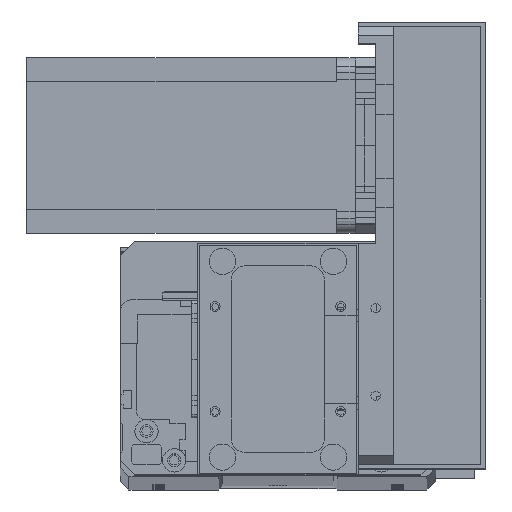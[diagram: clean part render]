
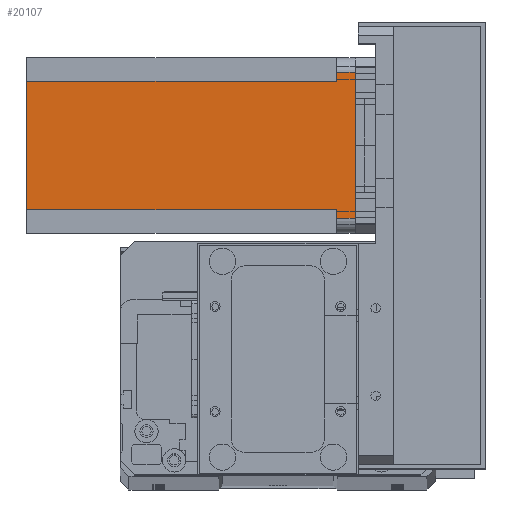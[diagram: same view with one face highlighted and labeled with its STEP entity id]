
A CAD part, top view. The second image highlights one B-rep face of the part: STEP entity #20107.
In plain terms, the highlighted planar face has unit normal (0, 0, 1) as drawn and (0, 1, 0) by its records, which use the part's own axes.
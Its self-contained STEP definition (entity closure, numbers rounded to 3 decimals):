
#44 = VERTEX_POINT ( 'NONE', #1374 ) ;
#1374 = CARTESIAN_POINT ( 'NONE',  ( 52., 60., -112.5 ) ) ;
#1940 = AXIS2_PLACEMENT_3D ( 'NONE', #10374, #13042, #31645 ) ;
#2278 = VECTOR ( 'NONE', #20853, 1000. ) ;
#3278 = ORIENTED_EDGE ( 'NONE', *, *, #4891, .T. ) ;
#4221 = CARTESIAN_POINT ( 'NONE',  ( 0., 60., 0. ) ) ;
#4891 = EDGE_CURVE ( 'NONE', #26386, #33839, #9942, .T. ) ;
#5492 = CARTESIAN_POINT ( 'NONE',  ( 5., 60., 0. ) ) ;
#6322 = LINE ( 'NONE', #16044, #19592 ) ;
#7573 = DIRECTION ( 'NONE',  ( -1., 0., 0. ) ) ;
#7889 = CARTESIAN_POINT ( 'NONE',  ( 8., 60., -112.5 ) ) ;
#8485 = FACE_OUTER_BOUND ( 'NONE', #16113, .T. ) ;
#8500 = EDGE_CURVE ( 'NONE', #10955, #33839, #12228, .T. ) ;
#9814 = EDGE_CURVE ( 'NONE', #26386, #12941, #23393, .T. ) ;
#9942 = LINE ( 'NONE', #17019, #23257 ) ;
#10358 = VERTEX_POINT ( 'NONE', #7889 ) ;
#10374 = CARTESIAN_POINT ( 'NONE',  ( 0., 60., -112.5 ) ) ;
#10632 = CARTESIAN_POINT ( 'NONE',  ( 8., 60., -112.5 ) ) ;
#10677 = DIRECTION ( 'NONE',  ( -1., 0., 0. ) ) ;
#10955 = VERTEX_POINT ( 'NONE', #15630 ) ;
#11748 = CARTESIAN_POINT ( 'NONE',  ( 52., 60., -112.5 ) ) ;
#12139 = CARTESIAN_POINT ( 'NONE',  ( 55., 60., -6.5 ) ) ;
#12228 = LINE ( 'NONE', #19976, #34304 ) ;
#12941 = VERTEX_POINT ( 'NONE', #5492 ) ;
#13042 = DIRECTION ( 'NONE',  ( 0., 1., 0. ) ) ;
#13218 = ORIENTED_EDGE ( 'NONE', *, *, #22394, .T. ) ;
#13413 = CARTESIAN_POINT ( 'NONE',  ( 55., 60., 0. ) ) ;
#14456 = DIRECTION ( 'NONE',  ( 0., 0., 1. ) ) ;
#14851 = VECTOR ( 'NONE', #14456, 1000. ) ;
#15630 = CARTESIAN_POINT ( 'NONE',  ( 52., 60., -6.5 ) ) ;
#15683 = LINE ( 'NONE', #11748, #14851 ) ;
#16000 = DIRECTION ( 'NONE',  ( 0., 0., -1. ) ) ;
#16044 = CARTESIAN_POINT ( 'NONE',  ( 8., 60., -6.5 ) ) ;
#16113 = EDGE_LOOP ( 'NONE', ( #25233, #3278, #21929, #33184, #13218, #29199, #27236, #33185 ) ) ;
#17019 = CARTESIAN_POINT ( 'NONE',  ( 55., 60., -112.5 ) ) ;
#17871 = LINE ( 'NONE', #10632, #24092 ) ;
#17954 = VERTEX_POINT ( 'NONE', #24456 ) ;
#18107 = EDGE_CURVE ( 'NONE', #44, #10955, #15683, .T. ) ;
#18190 = CARTESIAN_POINT ( 'NONE',  ( 5., 60., -112.5 ) ) ;
#19592 = VECTOR ( 'NONE', #10677, 1000. ) ;
#19642 = EDGE_CURVE ( 'NONE', #23419, #12941, #21813, .T. ) ;
#19976 = CARTESIAN_POINT ( 'NONE',  ( 52., 60., -6.5 ) ) ;
#20087 = DIRECTION ( 'NONE',  ( -1., 0., 0. ) ) ;
#20107 = ADVANCED_FACE ( 'NONE', ( #8485 ), #26288, .T. ) ;
#20853 = DIRECTION ( 'NONE',  ( 0., 0., 1. ) ) ;
#21711 = VECTOR ( 'NONE', #20087, 1000. ) ;
#21813 = LINE ( 'NONE', #18190, #2278 ) ;
#21929 = ORIENTED_EDGE ( 'NONE', *, *, #8500, .F. ) ;
#22394 = EDGE_CURVE ( 'NONE', #44, #10358, #32488, .T. ) ;
#22495 = EDGE_CURVE ( 'NONE', #17954, #23419, #6322, .T. ) ;
#22638 = DIRECTION ( 'NONE',  ( 1., 0., 0. ) ) ;
#23257 = VECTOR ( 'NONE', #30365, 1000. ) ;
#23393 = LINE ( 'NONE', #4221, #21711 ) ;
#23419 = VERTEX_POINT ( 'NONE', #28568 ) ;
#23570 = EDGE_CURVE ( 'NONE', #17954, #10358, #17871, .T. ) ;
#24092 = VECTOR ( 'NONE', #16000, 1000. ) ;
#24456 = CARTESIAN_POINT ( 'NONE',  ( 8., 60., -6.5 ) ) ;
#25233 = ORIENTED_EDGE ( 'NONE', *, *, #9814, .F. ) ;
#25413 = VECTOR ( 'NONE', #7573, 1000. ) ;
#26161 = CARTESIAN_POINT ( 'NONE',  ( 0., 60., -112.5 ) ) ;
#26288 = PLANE ( 'NONE',  #1940 ) ;
#26386 = VERTEX_POINT ( 'NONE', #13413 ) ;
#27236 = ORIENTED_EDGE ( 'NONE', *, *, #22495, .T. ) ;
#28568 = CARTESIAN_POINT ( 'NONE',  ( 5., 60., -6.5 ) ) ;
#29199 = ORIENTED_EDGE ( 'NONE', *, *, #23570, .F. ) ;
#30365 = DIRECTION ( 'NONE',  ( 0., 0., -1. ) ) ;
#31645 = DIRECTION ( 'NONE',  ( 0., 0., 1. ) ) ;
#32488 = LINE ( 'NONE', #26161, #25413 ) ;
#33184 = ORIENTED_EDGE ( 'NONE', *, *, #18107, .F. ) ;
#33185 = ORIENTED_EDGE ( 'NONE', *, *, #19642, .T. ) ;
#33839 = VERTEX_POINT ( 'NONE', #12139 ) ;
#34304 = VECTOR ( 'NONE', #22638, 1000. ) ;
